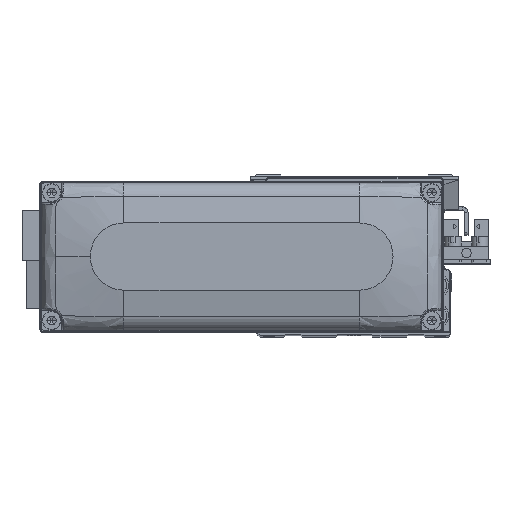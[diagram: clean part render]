
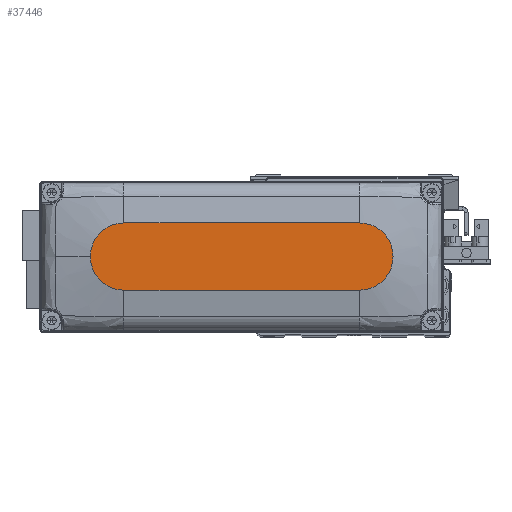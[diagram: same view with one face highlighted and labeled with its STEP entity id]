
A CAD part, top view. The second image highlights one B-rep face of the part: STEP entity #37446.
In plain terms, the highlighted planar face has unit normal (0, 0, 1).
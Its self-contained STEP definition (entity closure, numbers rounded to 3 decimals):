
#2642 = ORIENTED_EDGE ( 'NONE', *, *, #18184, .T. ) ;
#2873 = AXIS2_PLACEMENT_3D ( 'NONE', #14903, #27489, #40103 ) ;
#3539 = ORIENTED_EDGE ( 'NONE', *, *, #31824, .T. ) ;
#3717 = CARTESIAN_POINT ( 'NONE',  ( -35., 10., 28. ) ) ;
#3725 = ORIENTED_EDGE ( 'NONE', *, *, #33986, .T. ) ;
#4934 = DIRECTION ( 'NONE',  ( 1., 0., 0. ) ) ;
#7355 = VERTEX_POINT ( 'NONE', #14564 ) ;
#8022 = PLANE ( 'NONE',  #13728 ) ;
#8414 = DIRECTION ( 'NONE',  ( 1., 0., 0. ) ) ;
#11096 = DIRECTION ( 'NONE',  ( 0., 0., 1. ) ) ;
#12266 = CARTESIAN_POINT ( 'NONE',  ( 35., 0., 28. ) ) ;
#13728 = AXIS2_PLACEMENT_3D ( 'NONE', #20629, #33240, #4934 ) ;
#14564 = CARTESIAN_POINT ( 'NONE',  ( 35., 10., 28. ) ) ;
#14903 = CARTESIAN_POINT ( 'NONE',  ( -35., 0., 28. ) ) ;
#15188 = VERTEX_POINT ( 'NONE', #31834 ) ;
#15858 = EDGE_LOOP ( 'NONE', ( #22393, #3539, #2642, #20520, #3725 ) ) ;
#16140 = CIRCLE ( 'NONE', #39252, 10. ) ;
#16320 = DIRECTION ( 'NONE',  ( -1., 0., 0. ) ) ;
#17124 = CARTESIAN_POINT ( 'NONE',  ( -35., 10., 28. ) ) ;
#18184 = EDGE_CURVE ( 'NONE', #15188, #40505, #24113, .T. ) ;
#19928 = AXIS2_PLACEMENT_3D ( 'NONE', #12266, #24842, #37464 ) ;
#20319 = EDGE_CURVE ( 'NONE', #40505, #25553, #37729, .T. ) ;
#20520 = ORIENTED_EDGE ( 'NONE', *, *, #20319, .T. ) ;
#20629 = CARTESIAN_POINT ( 'NONE',  ( 0., 0., 28. ) ) ;
#20711 = CIRCLE ( 'NONE', #2873, 10. ) ;
#22393 = ORIENTED_EDGE ( 'NONE', *, *, #27974, .T. ) ;
#22509 = VECTOR ( 'NONE', #8414, 1000. ) ;
#23686 = DIRECTION ( 'NONE',  ( 1., 0., 0. ) ) ;
#24113 = LINE ( 'NONE', #36730, #22509 ) ;
#24842 = DIRECTION ( 'NONE',  ( 0., 0., 1. ) ) ;
#25553 = VERTEX_POINT ( 'NONE', #40395 ) ;
#27489 = DIRECTION ( 'NONE',  ( 0., 0., 1. ) ) ;
#27974 = EDGE_CURVE ( 'NONE', #7355, #37401, #32021, .T. ) ;
#31644 = VECTOR ( 'NONE', #16320, 1000. ) ;
#31824 = EDGE_CURVE ( 'NONE', #37401, #15188, #20711, .T. ) ;
#31834 = CARTESIAN_POINT ( 'NONE',  ( -35., -10., 28. ) ) ;
#32021 = LINE ( 'NONE', #3717, #31644 ) ;
#33240 = DIRECTION ( 'NONE',  ( 0., 0., 1. ) ) ;
#33986 = EDGE_CURVE ( 'NONE', #25553, #7355, #16140, .T. ) ;
#35232 = CARTESIAN_POINT ( 'NONE',  ( 35., -10., 28. ) ) ;
#36332 = FACE_OUTER_BOUND ( 'NONE', #15858, .T. ) ;
#36730 = CARTESIAN_POINT ( 'NONE',  ( -35., -10., 28. ) ) ;
#37401 = VERTEX_POINT ( 'NONE', #17124 ) ;
#37446 = ADVANCED_FACE ( 'NONE', ( #36332 ), #8022, .T. ) ;
#37464 = DIRECTION ( 'NONE',  ( 1., 0., 0. ) ) ;
#37729 = CIRCLE ( 'NONE', #19928, 10. ) ;
#39252 = AXIS2_PLACEMENT_3D ( 'NONE', #39406, #11096, #23686 ) ;
#39406 = CARTESIAN_POINT ( 'NONE',  ( 35., 0., 28. ) ) ;
#40103 = DIRECTION ( 'NONE',  ( 1., 0., 0. ) ) ;
#40395 = CARTESIAN_POINT ( 'NONE',  ( 45., 0., 28. ) ) ;
#40505 = VERTEX_POINT ( 'NONE', #35232 ) ;
